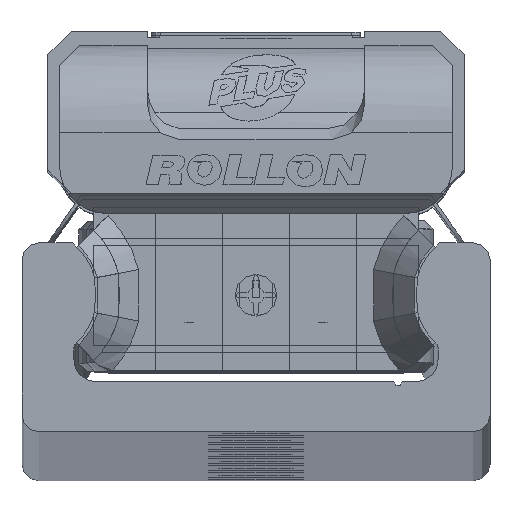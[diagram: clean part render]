
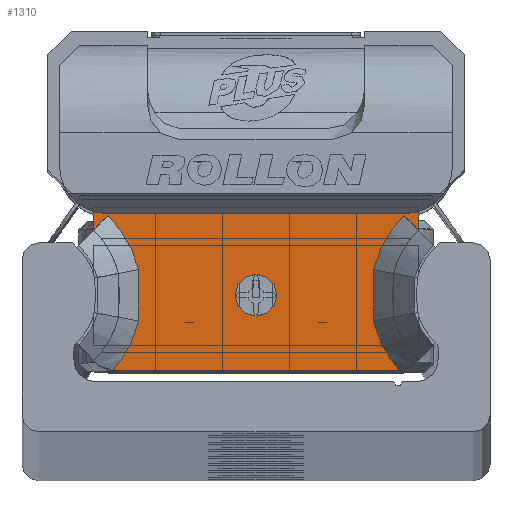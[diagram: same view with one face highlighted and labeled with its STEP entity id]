
A CAD part, top view. The second image highlights one B-rep face of the part: STEP entity #1310.
In plain terms, the highlighted planar face has unit normal (0, 0, 1) as drawn and (0, 0, -1) by its records, which use the part's own axes.
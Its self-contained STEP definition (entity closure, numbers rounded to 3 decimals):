
#1310 = ADVANCED_FACE( '', ( #3035, #3036 ), #3037, .F. );
#3035 = FACE_BOUND( '', #5319, .T. );
#3036 = FACE_OUTER_BOUND( '', #5320, .T. );
#3037 = PLANE( '', #5321 );
#5319 = EDGE_LOOP( '', ( #9070 ) );
#5320 = EDGE_LOOP( '', ( #9071, #9072, #9073, #9074, #9075, #9076, #9077, #9078, #9079, #9080, #9081, #9082, #9083, #9084 ) );
#5321 = AXIS2_PLACEMENT_3D( '', #9085, #9086, #9087 );
#9070 = ORIENTED_EDGE( '', *, *, #13168, .T. );
#9071 = ORIENTED_EDGE( '', *, *, #13833, .F. );
#9072 = ORIENTED_EDGE( '', *, *, #13834, .T. );
#9073 = ORIENTED_EDGE( '', *, *, #13835, .T. );
#9074 = ORIENTED_EDGE( '', *, *, #13836, .T. );
#9075 = ORIENTED_EDGE( '', *, *, #13163, .T. );
#9076 = ORIENTED_EDGE( '', *, *, #13058, .T. );
#9077 = ORIENTED_EDGE( '', *, *, #12744, .T. );
#9078 = ORIENTED_EDGE( '', *, *, #13683, .T. );
#9079 = ORIENTED_EDGE( '', *, *, #13837, .T. );
#9080 = ORIENTED_EDGE( '', *, *, #13106, .T. );
#9081 = ORIENTED_EDGE( '', *, *, #13838, .T. );
#9082 = ORIENTED_EDGE( '', *, *, #13839, .T. );
#9083 = ORIENTED_EDGE( '', *, *, #13840, .T. );
#9084 = ORIENTED_EDGE( '', *, *, #13841, .T. );
#9085 = CARTESIAN_POINT( '', ( 9.7, 4.89, -10.6 ) );
#9086 = DIRECTION( '', ( 0., 0., 1. ) );
#9087 = DIRECTION( '', ( 1., 0., 0. ) );
#12744 = EDGE_CURVE( '', #15083, #15084, #15085, .T. );
#13058 = EDGE_CURVE( '', #15632, #15083, #15633, .T. );
#13106 = EDGE_CURVE( '', #15697, #15682, #15711, .T. );
#13163 = EDGE_CURVE( '', #15803, #15632, #15804, .T. );
#13168 = EDGE_CURVE( '', #15810, #15810, #15811, .T. );
#13683 = EDGE_CURVE( '', #15084, #16640, #16642, .T. );
#13833 = EDGE_CURVE( '', #16873, #16179, #16874, .T. );
#13834 = EDGE_CURVE( '', #16873, #16875, #16876, .T. );
#13835 = EDGE_CURVE( '', #16875, #16877, #16878, .T. );
#13836 = EDGE_CURVE( '', #16877, #15803, #16879, .T. );
#13837 = EDGE_CURVE( '', #16640, #15697, #16880, .T. );
#13838 = EDGE_CURVE( '', #15682, #16881, #16882, .T. );
#13839 = EDGE_CURVE( '', #16881, #16883, #16884, .T. );
#13840 = EDGE_CURVE( '', #16883, #16885, #16886, .T. );
#13841 = EDGE_CURVE( '', #16885, #16179, #16887, .T. );
#15083 = VERTEX_POINT( '', #18487 );
#15084 = VERTEX_POINT( '', #18488 );
#15085 = B_SPLINE_CURVE_WITH_KNOTS( '', 2, ( #18489, #18490, #18491, #18492, #18493 ), .UNSPECIFIED., .F., .F., ( 3, 2, 3 ), ( 0., 0.5, 1. ), .UNSPECIFIED. );
#15632 = VERTEX_POINT( '', #19234 );
#15633 = LINE( '', #19235, #19236 );
#15682 = VERTEX_POINT( '', #19301 );
#15697 = VERTEX_POINT( '', #19319 );
#15711 = LINE( '', #19338, #19339 );
#15803 = VERTEX_POINT( '', #19473 );
#15804 = LINE( '', #19474, #19475 );
#15810 = VERTEX_POINT( '', #19484 );
#15811 = CIRCLE( '', #19485, 1.25 );
#16179 = VERTEX_POINT( '', #19976 );
#16640 = VERTEX_POINT( '', #20683 );
#16642 = B_SPLINE_CURVE_WITH_KNOTS( '', 2, ( #20686, #20687, #20688 ), .UNSPECIFIED., .F., .F., ( 3, 3 ), ( 0., 1. ), .UNSPECIFIED. );
#16873 = VERTEX_POINT( '', #21072 );
#16874 = LINE( '', #21073, #21074 );
#16875 = VERTEX_POINT( '', #21075 );
#16876 = CIRCLE( '', #21076, 2.8 );
#16877 = VERTEX_POINT( '', #21077 );
#16878 = LINE( '', #21078, #21079 );
#16879 = CIRCLE( '', #21080, 2.8 );
#16880 = B_SPLINE_CURVE_WITH_KNOTS( '', 2, ( #21081, #21082, #21083 ), .UNSPECIFIED., .F., .F., ( 3, 3 ), ( 0., 1. ), .UNSPECIFIED. );
#16881 = VERTEX_POINT( '', #21084 );
#16882 = B_SPLINE_CURVE_WITH_KNOTS( '', 2, ( #21085, #21086, #21087 ), .UNSPECIFIED., .F., .F., ( 3, 3 ), ( 0.1, 1. ), .UNSPECIFIED. );
#16883 = VERTEX_POINT( '', #21088 );
#16884 = B_SPLINE_CURVE_WITH_KNOTS( '', 2, ( #21089, #21090, #21091 ), .UNSPECIFIED., .F., .F., ( 3, 3 ), ( 0., 1. ), .UNSPECIFIED. );
#16885 = VERTEX_POINT( '', #21092 );
#16886 = B_SPLINE_CURVE_WITH_KNOTS( '', 2, ( #21093, #21094, #21095 ), .UNSPECIFIED., .F., .F., ( 3, 3 ), ( 0., 1. ), .UNSPECIFIED. );
#16887 = LINE( '', #21096, #21097 );
#18487 = CARTESIAN_POINT( '', ( 8.853, 4.366, -10.6 ) );
#18488 = CARTESIAN_POINT( '', ( 7.031, 1.144, -10.6 ) );
#18489 = CARTESIAN_POINT( '', ( 8.853, 4.366, -10.6 ) );
#18490 = CARTESIAN_POINT( '', ( 8.182, 3.708, -10.6 ) );
#18491 = CARTESIAN_POINT( '', ( 7.715, 2.883, -10.6 ) );
#18492 = CARTESIAN_POINT( '', ( 7.249, 2.058, -10.6 ) );
#18493 = CARTESIAN_POINT( '', ( 7.031, 1.144, -10.6 ) );
#19234 = CARTESIAN_POINT( '', ( 9.7, 3.497, -10.6 ) );
#19235 = CARTESIAN_POINT( '', ( 9.7, 3.501, -10.6 ) );
#19236 = VECTOR( '', #23526, 1000. );
#19301 = CARTESIAN_POINT( '', ( -8.59, -4.893, -10.6 ) );
#19319 = CARTESIAN_POINT( '', ( 8.59, -4.893, -10.6 ) );
#19338 = CARTESIAN_POINT( '', ( 9.7, -4.89, -10.6 ) );
#19339 = VECTOR( '', #23592, 1000. );
#19473 = CARTESIAN_POINT( '', ( 9.7, 4.612, -10.6 ) );
#19474 = CARTESIAN_POINT( '', ( 9.7, 4.89, -10.6 ) );
#19475 = VECTOR( '', #23667, 1000. );
#19484 = CARTESIAN_POINT( '', ( 1.25, -0.39, -10.6 ) );
#19485 = AXIS2_PLACEMENT_3D( '', #23671, #23672, #23673 );
#19976 = CARTESIAN_POINT( '', ( -9.7, 3.494, -10.6 ) );
#20683 = CARTESIAN_POINT( '', ( 7.031, -1.944, -10.6 ) );
#20686 = CARTESIAN_POINT( '', ( 7.031, 1.144, -10.6 ) );
#20687 = CARTESIAN_POINT( '', ( 6.929, -0.4, -10.6 ) );
#20688 = CARTESIAN_POINT( '', ( 7.031, -1.944, -10.6 ) );
#21072 = CARTESIAN_POINT( '', ( -9.7, 4.612, -10.6 ) );
#21073 = CARTESIAN_POINT( '', ( -9.7, 4.89, -10.6 ) );
#21074 = VECTOR( '', #24625, 1000. );
#21075 = CARTESIAN_POINT( '', ( -8.95, 4.51, -10.6 ) );
#21076 = AXIS2_PLACEMENT_3D( '', #24626, #24627, #24628 );
#21077 = CARTESIAN_POINT( '', ( 8.95, 4.51, -10.6 ) );
#21078 = CARTESIAN_POINT( '', ( 9.7, 4.51, -10.6 ) );
#21079 = VECTOR( '', #24629, 1000. );
#21080 = AXIS2_PLACEMENT_3D( '', #24630, #24631, #24632 );
#21081 = CARTESIAN_POINT( '', ( 7.031, -1.944, -10.6 ) );
#21082 = CARTESIAN_POINT( '', ( 7.429, -3.615, -10.6 ) );
#21083 = CARTESIAN_POINT( '', ( 8.588, -4.89, -10.6 ) );
#21084 = CARTESIAN_POINT( '', ( -7.031, -1.944, -10.6 ) );
#21085 = CARTESIAN_POINT( '', ( -8.587, -4.89, -10.6 ) );
#21086 = CARTESIAN_POINT( '', ( -7.432, -3.63, -10.6 ) );
#21087 = CARTESIAN_POINT( '', ( -7.031, -1.944, -10.6 ) );
#21088 = CARTESIAN_POINT( '', ( -7.031, 1.144, -10.6 ) );
#21089 = CARTESIAN_POINT( '', ( -7.031, -1.944, -10.6 ) );
#21090 = CARTESIAN_POINT( '', ( -6.929, -0.4, -10.6 ) );
#21091 = CARTESIAN_POINT( '', ( -7.031, 1.144, -10.6 ) );
#21092 = CARTESIAN_POINT( '', ( -8.853, 4.366, -10.6 ) );
#21093 = CARTESIAN_POINT( '', ( -7.031, 1.144, -10.6 ) );
#21094 = CARTESIAN_POINT( '', ( -7.477, 3.018, -10.6 ) );
#21095 = CARTESIAN_POINT( '', ( -8.853, 4.366, -10.6 ) );
#21096 = CARTESIAN_POINT( '', ( -8.853, 4.366, -10.6 ) );
#21097 = VECTOR( '', #24633, 1000. );
#23526 = DIRECTION( '', ( -0.7, 0.714, 0. ) );
#23592 = DIRECTION( '', ( -1., 0., 0. ) );
#23667 = DIRECTION( '', ( 0., -1., 0. ) );
#23671 = CARTESIAN_POINT( '', ( 0., -0.39, -10.6 ) );
#23672 = DIRECTION( '', ( 0., 0., 1. ) );
#23673 = DIRECTION( '', ( 1., 0., 0. ) );
#24625 = DIRECTION( '', ( 0., -1., 0. ) );
#24626 = CARTESIAN_POINT( '', ( -8.95, 7.31, -10.6 ) );
#24627 = DIRECTION( '', ( 0., 0., 1. ) );
#24628 = DIRECTION( '', ( 1., 0., 0. ) );
#24629 = DIRECTION( '', ( 1., 0., 0. ) );
#24630 = CARTESIAN_POINT( '', ( 8.95, 7.31, -10.6 ) );
#24631 = DIRECTION( '', ( 0., 0., 1. ) );
#24632 = DIRECTION( '', ( 1., 0., 0. ) );
#24633 = DIRECTION( '', ( -0.7, -0.714, 0. ) );
